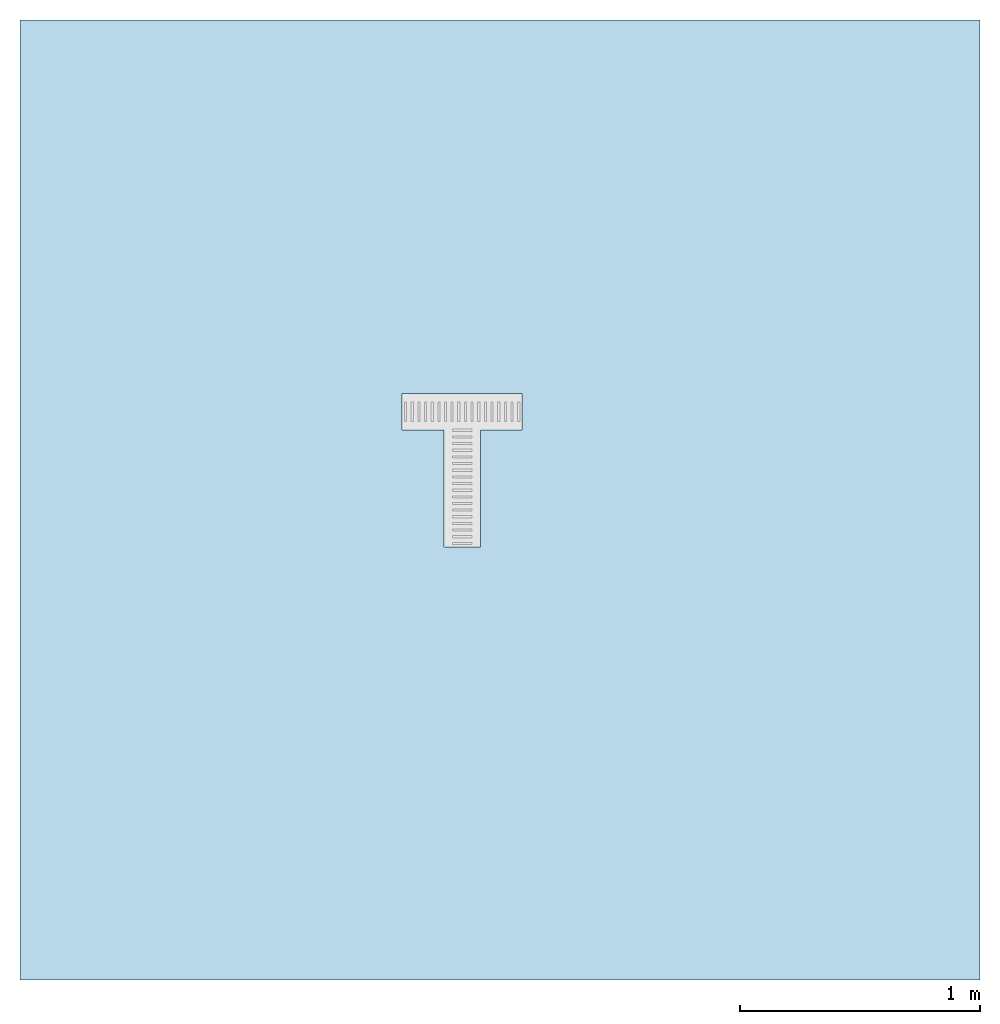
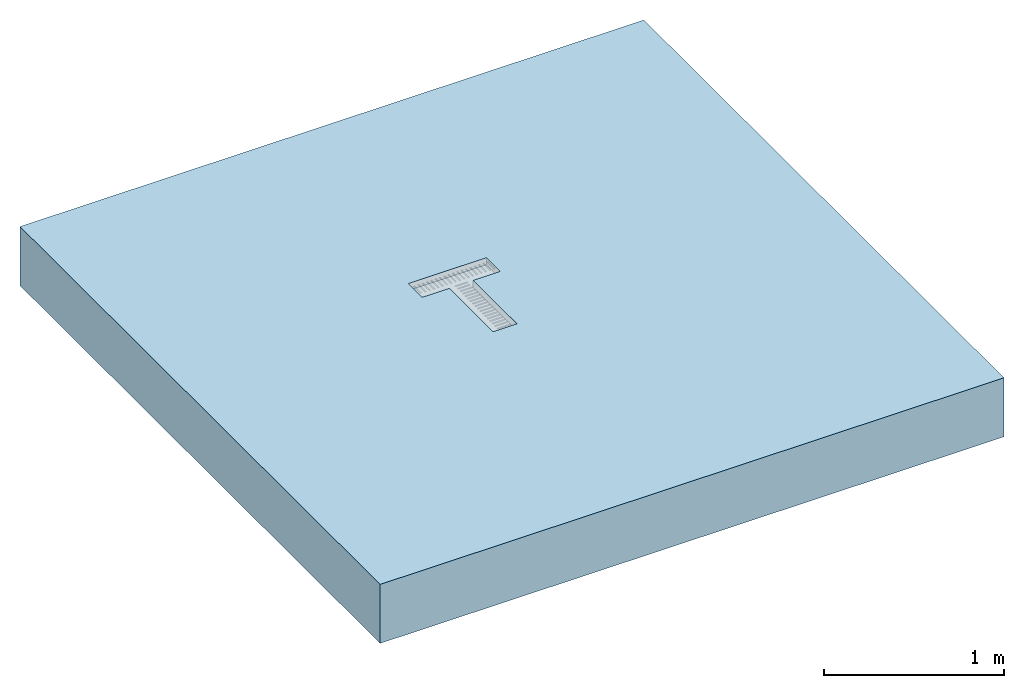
# One storey, incomplete: 1 slab, 1 opening.
"""IFC2X3 building model written with IfcOpenShell, lengths in millimetres."""

from ifc_helpers import new_model, entity, si_unit, converted_unit, direction, frame, frame_2d, origin, place, context, subcontext, project, spatial, polyline, rectangle, outline, extrude, material, layer, layer_set, layer_usage, element, save


model = new_model("IFC2X3")

# Units and contexts
model_context = context("Model", 3, precision=1e-06, world=origin(), true_north=direction((2.0, 6.12303176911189e-17, 1.0)))
context_of_model = context(None, 3, precision=1e-06, world=origin(), true_north=direction((2.0, 6.12303176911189e-17, 1.0)))
body_context = subcontext(model_context, "Body", "Model", "MODEL_VIEW")
ifc_project = project(units=[si_unit("LENGTHUNIT", "METRE", prefix="MILLI"), si_unit("AREAUNIT", "SQUARE_METRE", prefix="MILLI"), si_unit("VOLUMEUNIT", "CUBIC_METRE", prefix="MILLI"), converted_unit("PLANEANGLEUNIT", "DEGREE", entity("IfcRatioMeasure", 0.0174532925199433), si_unit("PLANEANGLEUNIT", "RADIAN"), dimensions=[0, 0, 0, 0, 0, 0, 0]), si_unit("TIMEUNIT", "SECOND")], contexts=[model_context, context_of_model])

# Site, building, storey
site_placement = place(None, origin())
site = spatial("IfcSite", under=ifc_project, at=site_placement, Name="Default", CompositionType="ELEMENT")
building_placement = place(site_placement, origin())
building = spatial("IfcBuilding", under=site, at=building_placement, CompositionType="ELEMENT")
storey_placement = place(building_placement, origin())
storey = spatial("IfcBuildingStorey", under=building, at=storey_placement, Name="Level 1", CompositionType="ELEMENT", Elevation=0.0)

# Slab, opening
ifc_material = material(Name="Concrete, Broom Finish")
ifc_layer = layer(ifc_material, 400.0)
ifc_layer_set = layer_set([ifc_layer], Name="Floor:Generic Floor - 400mm")
ifc_layer_usage = layer_usage(ifc_layer_set, "AXIS3", "POSITIVE", 0.0)
slab_placement = place(storey_placement, origin())
slab = element("IfcSlab", 1, at=slab_placement, inside=storey, material=ifc_layer_usage, Name="Floor:Generic Floor - 400mm", ObjectType="Floor:Generic Floor - 400mm", PredefinedType="FLOOR", context=body_context, shape_type="SweptSolid", body=[
    extrude(rectangle(XDim=4000.0, YDim=4000.0, at=frame_2d((0.0, 0.0), x_axis=(0.0, -1.0))), frame((-42.176138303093, 0.318612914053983, 0.0), z_axis=(0.0, 0.0, -1.0), x_axis=(-1.0, 0.0, 0.0)), (0.0, 0.0, 1.0), 400.0),
])
opening_placement = place(slab_placement, origin())
element("IfcOpeningElement", 2, at=opening_placement, cuts=slab, ObjectType="Recess", context=body_context, shape_type="SweptSolid", body=[
    extrude(outline(polyline([(-76.4999999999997, -402.716465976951), (76.4999999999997, -402.716465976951), (76.4999999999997, 83.2388219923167), (250.0, 83.2388219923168), (250.0, 236.238821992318), (-250.0, 236.238821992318), (-250.0, 83.2388219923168), (-76.4999999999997, 83.2388219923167), (-76.4999999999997, -402.716465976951)])), frame((-199.940676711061, 207.825896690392, -46.7938144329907)), (0.0, 0.0, 1.0), 46.79381443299),
])

save(model, "model.ifc")
